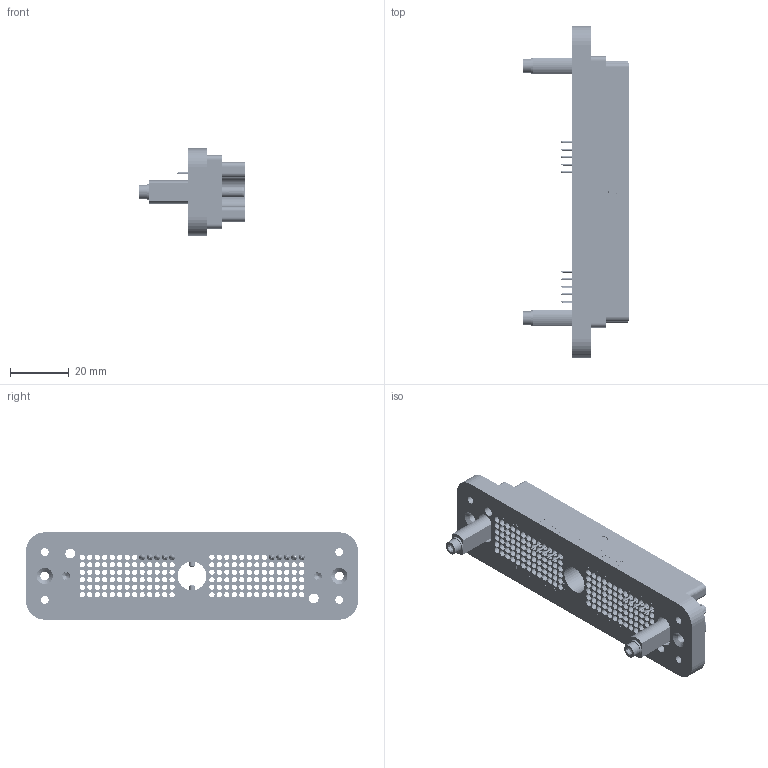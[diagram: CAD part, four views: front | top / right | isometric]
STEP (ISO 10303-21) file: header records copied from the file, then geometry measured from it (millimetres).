
FILE_DESCRIPTION(/* description */ (''),/* implementation_level */ '2;1');
FILE_NAME(/* name */ 'C:\Marketing\Inventor Web Projects\STP files\562602-RevA-STP\562602-RevA-STP.stp',/* time_stamp */ '2014-03-27T12:39:13-05:00',/* author */ ('shodnett'),/* organization */ (''),/* preprocessor_version */ 'ST-DEVELOPER v15.2',/* originating_system */ 'Autodesk Inventor 2014',/* authorisation */ '');
FILE_SCHEMA (('AUTOMOTIVE_DESIGN { 1 0 10303 214 3 1 1 }'));
Products named in the file (1): 562602-CU
Bounding box: 36.04 x 112.7 x 29.62 mm (x, y, z)
Surface area: 35594.8 mm2 (no closed solid volume)
Topology: 0 solids, 21 shells, 3912 faces, 10107 edges, 6710 vertices
Faces by surface type: plane 2016, bspline 925, cylinder 797, cone 96, torus 78
Full cylindrical faces by diameter (mm): 1.778 x156, 1.93 x2, 1.981 x2, 2.083 x2, 2.159 x2, 2.261 x312, 2.642 x4, 2.845 x2, 2.921 x2, 2.946 x2, 3.175 x2, 3.302 x2, 3.556 x2, 4.013 x2, 4.394 x2, 4.572 x2, 4.623 x2, 4.648 x2, 5.309 x2, 9.703 x1
Entity records: 133642 total; most frequent: CARTESIAN_POINT 41791, ORIENTED_EDGE 19110, DIRECTION 14601, EDGE_CURVE 9555, VERTEX_POINT 6684, EDGE_LOOP 5357, LINE 5325, VECTOR 5325
